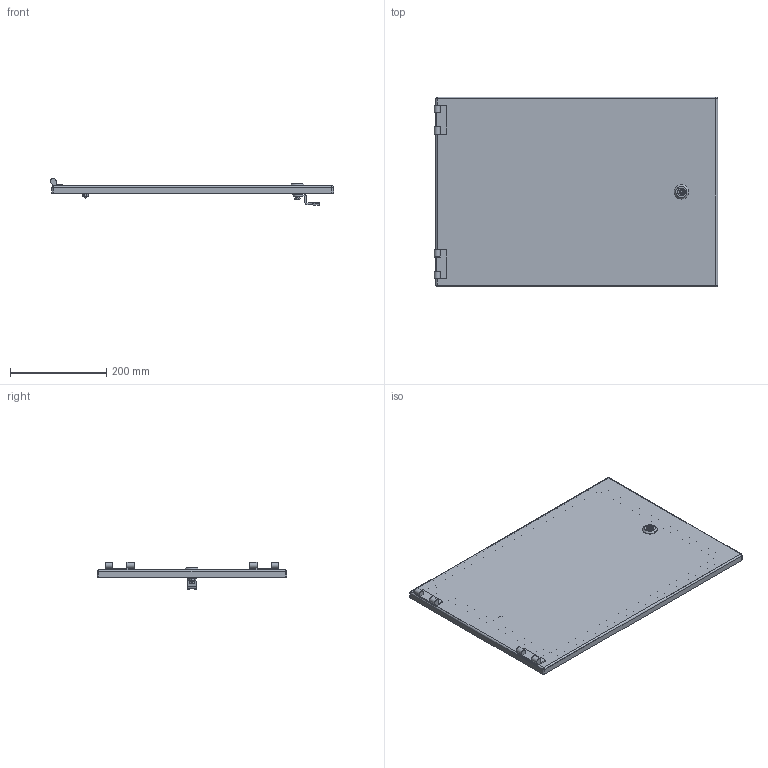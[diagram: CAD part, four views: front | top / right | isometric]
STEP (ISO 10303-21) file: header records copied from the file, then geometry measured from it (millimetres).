
FILE_DESCRIPTION (( 'STEP AP214' ), '1' );
FILE_NAME ('D 40.60 M Äâåðü ñåêöèîííàÿ ãëóõàÿ.STEP', '2016-10-10T06:59:30', ( '' ), ( '' ), 'SwSTEP 2.0', 'SolidWorks 2012', '' );
FILE_SCHEMA (( 'AUTOMOTIVE_DESIGN' ));
Length unit declared in the file: millimetre
Products named in the file (1): D 40.60 M Äâåðü ñåêöèîííàÿ ãëóõàÿ
Bounding box: 588.2 x 394 x 56.33 mm (x, y, z)
Volume: 707717 mm3; surface area: 594786.7 mm2
Topology: 7 solids, 7 shells, 333 faces, 840 edges, 526 vertices
Faces by surface type: plane 151, cylinder 114, cone 36, torus 13, bspline 11, sphere 8
Entity records: 10688 total; most frequent: CARTESIAN_POINT 2456, DIRECTION 1690, ORIENTED_EDGE 1664, EDGE_CURVE 832, AXIS2_PLACEMENT_3D 616, VERTEX_POINT 526, LINE 458, VECTOR 458
